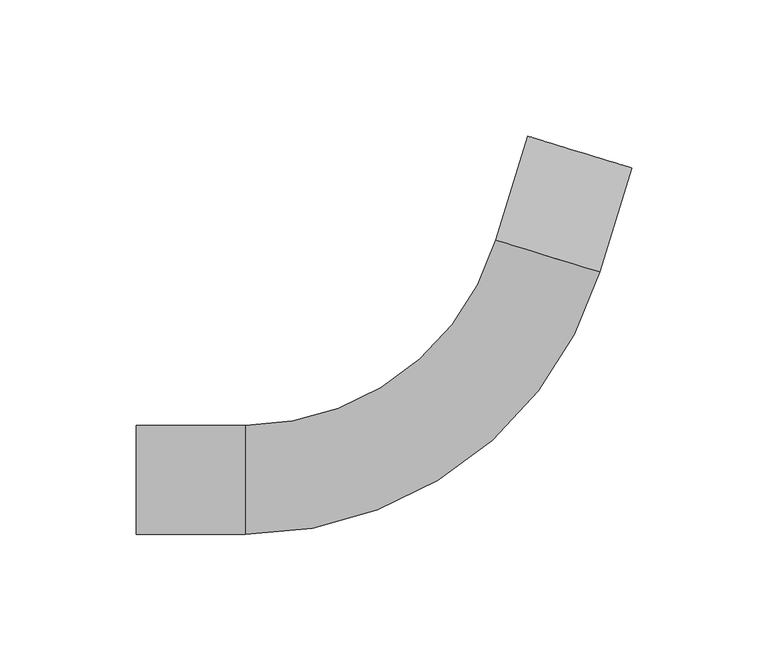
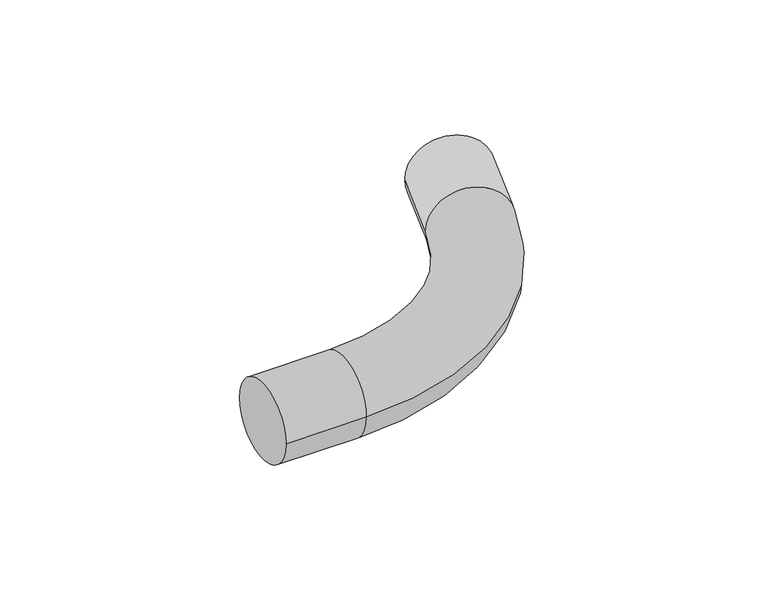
"""IFC4 building model written with IfcOpenShell, lengths in millimetres: cable carrier fitting geometry, Трубы гофрированные двустенные ПНД-ПВД : Трубы гофрированные двустенные ПНД-ПВД."""

import ifcopenshell
import ifcopenshell.guid

model = None  # the IFC model being written
_history = None  # IfcOwnerHistory: only IFC2X3 demands one
_inside = {}  # id of a spatial element -> (the spatial element, [elements in it])
_under = {}  # id of a project, library or spatial element -> (it, [spatial elements below it])
_declared = {}  # id of a project -> (the project, [libraries it declares])
_typed = {}  # id of a type object -> (the type object, [elements of that type])
_made_of = {}  # id of a material, layer set ... -> (it, [elements and type objects made of it])


def new_model(schema):
    """Start an empty IFC model of exactly this schema.

    Asked for "IFC4X3", IfcOpenShell would pick the latest addendum, in which some entities
    have other attributes; the version numbers below select the first issue.
    IFC2X3 requires an IfcOwnerHistory on every rooted entity: one is made here for all.
    """
    global model, _history
    if schema == "IFC4X3":
        model = ifcopenshell.file(schema_version=(4, 3, 0, 0))
    else:
        model = ifcopenshell.file(schema=schema)
    _inside.clear()
    _under.clear()
    _declared.clear()
    _typed.clear()
    _made_of.clear()
    _history = None
    if model.schema == "IFC2X3":
        org = make("IfcOrganization", Name="unknown")
        user = make(
            "IfcPersonAndOrganization",
            ThePerson=make("IfcPerson", FamilyName="unknown"),
            TheOrganization=org,
        )
        app = make(
            "IfcApplication",
            ApplicationDeveloper=org,
            Version="unknown",
            ApplicationFullName="unknown",
            ApplicationIdentifier="unknown",
        )
        _history = make(
            "IfcOwnerHistory",
            OwningUser=user,
            OwningApplication=app,
            ChangeAction="ADDED",
            CreationDate=0,
        )
    return model


def make(cls, **values):
    """One entity of the class cls with the attributes given. An attribute that is None is left unset."""
    return model.create_entity(
        cls, **{name: value for name, value in values.items() if value is not None}
    )


def rooted(cls, **values):
    """An entity with a GlobalId (a new one), such as an element, a storey or a relation."""
    return make(cls, GlobalId=ifcopenshell.guid.new(), OwnerHistory=_history, **values)


def si_unit(unit_type, name, prefix=None):
    """IfcSIUnit, for example si_unit("LENGTHUNIT", "METRE", prefix="MILLI")."""
    return make("IfcSIUnit", UnitType=unit_type, Prefix=prefix, Name=name)


def assignment(units):
    """IfcUnitAssignment: the units of a project."""
    return None if units is None else make("IfcUnitAssignment", Units=units)


def point(xyz):
    """IfcCartesianPoint."""
    return None if xyz is None else make("IfcCartesianPoint", Coordinates=xyz)


def direction(xyz):
    """IfcDirection."""
    return None if xyz is None else make("IfcDirection", DirectionRatios=xyz)


def frame(location, z_axis=None, x_axis=None):
    """IfcAxis2Placement3D, a coordinate frame: its origin and axes. An axis left out is left unset."""
    return make(
        "IfcAxis2Placement3D",
        Location=point(location),
        Axis=direction(z_axis),
        RefDirection=direction(x_axis),
    )


def origin():
    """The frame at (0, 0, 0) with its axes left unset."""
    return frame((0.0, 0.0, 0.0))


def place(relative_to, where):
    """IfcLocalPlacement: puts the frame where relative to a parent placement (None: the world)."""
    return make(
        "IfcLocalPlacement", PlacementRelTo=relative_to, RelativePlacement=where
    )


def context(
    kind, dimensions, precision=None, world=None, true_north=None, identifier=None
):
    """IfcGeometricRepresentationContext, for example the 3D "Model" context."""
    return make(
        "IfcGeometricRepresentationContext",
        ContextIdentifier=identifier,
        ContextType=kind,
        CoordinateSpaceDimension=dimensions,
        Precision=precision,
        WorldCoordinateSystem=world,
        TrueNorth=true_north,
    )


def project(units=None, contexts=None):
    """IfcProject with its units and contexts."""
    return rooted(
        "IfcProject",
        Name="project",
        RepresentationContexts=contexts,
        UnitsInContext=assignment(units),
    )


def spatial(cls, under=None, at=None, **own):
    """A site, building, storey or space (cls), placed at a placement, below another one or the project."""
    s = rooted(cls, ObjectPlacement=at, **own)
    if under is not None:
        _under.setdefault(under.id(), (under, []))[1].append(s)
    return s


def circle_curve(where, radius):
    """IfcCircle in the frame where."""
    return make("IfcCircle", Position=where, Radius=radius)


def ellipse_curve(where, semi_axis1, semi_axis2):
    """IfcEllipse in the frame where."""
    return make(
        "IfcEllipse", Position=where, SemiAxis1=semi_axis1, SemiAxis2=semi_axis2
    )


def trimmed(basis, trim1, trim2, sense, master):
    """IfcTrimmedCurve: the piece of a basis curve between two trims."""
    return make(
        "IfcTrimmedCurve",
        BasisCurve=basis,
        Trim1=trim1,
        Trim2=trim2,
        SenseAgreement=sense,
        MasterRepresentation=master,
    )


def shape(context_of_items, identifier, shape_type, items):
    """IfcShapeRepresentation: the items that make up one representation, for example the "Body"."""
    return make(
        "IfcShapeRepresentation",
        ContextOfItems=context_of_items,
        RepresentationIdentifier=identifier,
        RepresentationType=shape_type,
        Items=items,
    )


def source(mapping_origin, context_of_items, identifier, shape_type, items):
    """IfcRepresentationMap: a shape defined once, which mapped items show again and again."""
    return make(
        "IfcRepresentationMap",
        MappingOrigin=mapping_origin,
        MappedRepresentation=shape(context_of_items, identifier, shape_type, items),
    )


def transform(
    local_origin,
    x_axis=None,
    y_axis=None,
    z_axis=None,
    scale=None,
    scale2=None,
    scale3=None,
    uniform=True,
):
    """IfcCartesianTransformationOperator3D, or its non-uniform kind. x_axis, y_axis, z_axis: its Axis1, 2, 3."""
    if uniform:
        return make(
            "IfcCartesianTransformationOperator3D",
            Axis1=direction(x_axis),
            Axis2=direction(y_axis),
            LocalOrigin=point(local_origin),
            Scale=scale,
            Axis3=direction(z_axis),
        )
    return make(
        "IfcCartesianTransformationOperator3DnonUniform",
        Axis1=direction(x_axis),
        Axis2=direction(y_axis),
        LocalOrigin=point(local_origin),
        Scale=scale,
        Axis3=direction(z_axis),
        Scale2=scale2,
        Scale3=scale3,
    )


def mapped(mapping_source, mapping_target):
    """IfcMappedItem: shows the shape of a source again, moved by a transform."""
    return make(
        "IfcMappedItem", MappingSource=mapping_source, MappingTarget=mapping_target
    )


def made_of(thing, what):
    """Note that an element or type object is made of a material, layer set ...; save() writes the relation."""
    if what is not None:
        _made_of.setdefault(what.id(), (what, []))[1].append(thing)
    return thing


def element(
    cls,
    number,
    at=None,
    inside=None,
    cuts=None,
    type_object=None,
    material=None,
    context=None,
    identifier="Body",
    shape_type=None,
    held_by="IfcProductDefinitionShape",
    body=None,
    shapes=None,
    **own,
):
    """One element of the class cls, such as IfcWall. Its Tag is "e" and its number.

    at: its placement. inside: the storey or other place that contains it. cuts: it is an
    opening in that element (IfcRelVoidsElement). A single representation is given by context,
    identifier, shape_type and body (its items); several are given by shapes. held_by: the class
    of the entity that holds the representations. save() writes the other relations.
    """
    e = rooted(cls, Tag="e%d" % number, ObjectPlacement=at, **own)
    if body is not None:
        shapes = [shape(context, identifier, shape_type, body)]
    if shapes is not None:
        e.Representation = make(held_by, Representations=shapes)
    if inside is not None:
        _inside.setdefault(inside.id(), (inside, []))[1].append(e)
    if cuts is not None:
        rooted(
            "IfcRelVoidsElement", RelatingBuildingElement=cuts, RelatedOpeningElement=e
        )
    if type_object is not None:
        _typed.setdefault(type_object.id(), (type_object, []))[1].append(e)
    return made_of(e, material)


def aggregate(whole, parts):
    """IfcRelAggregates: a whole, such as a stair, and the parts it consists of."""
    return rooted("IfcRelAggregates", RelatingObject=whole, RelatedObjects=parts)


def save(model, path):
    """Write the relations noted so far, then the file.

    IfcRelAggregates (storeys below a building ...), IfcRelContainedInSpatialStructure (elements
    in a storey), IfcRelDefinesByType, IfcRelAssociatesMaterial and IfcRelDeclares: one each for
    every whole, place, type object, material and project.
    """
    for whole, parts in _under.values():
        aggregate(whole, parts)
    for where, things in _inside.values():
        rooted(
            "IfcRelContainedInSpatialStructure",
            RelatedElements=things,
            RelatingStructure=where,
        )
    for kind, things in _typed.values():
        rooted("IfcRelDefinesByType", RelatedObjects=things, RelatingType=kind)
    for what, things in _made_of.values():
        rooted("IfcRelAssociatesMaterial", RelatedObjects=things, RelatingMaterial=what)
    for by, libraries in _declared.values():
        rooted("IfcRelDeclares", RelatingContext=by, RelatedDefinitions=libraries)
    model.write(path)


def plane_surface(at):
    """IfcPlane: the flat surface through the origin of the frame at, square to its z axis."""
    return make("IfcPlane", Position=at)


def cylinder_surface(at, radius):
    """IfcCylindricalSurface: all points at the distance radius from the z axis of the frame at."""
    return make("IfcCylindricalSurface", Position=at, Radius=radius)


def revolved_surface(curve, axis_point, axis_direction):
    """IfcSurfaceOfRevolution: the curve turned about the line through axis_point along axis_direction."""
    return make(
        "IfcSurfaceOfRevolution",
        SweptCurve=make("IfcArbitraryOpenProfileDef", ProfileType="CURVE", Curve=curve),
        AxisPosition=make("IfcAxis1Placement", Location=point(axis_point), Axis=direction(axis_direction)),
    )


def advanced_brep(points, edges, surfaces, faces):
    """IfcAdvancedBrep: a solid bounded by faces that lie on surfaces and meet in shared edges.

    An edge is (start, end): straight between two places in points (the first is 0);
    or (start, end, curve); or (start, end, curve, False) where it runs against its curve.
    A face is (place in surfaces, loops), or (place, loops, False) where it looks against
    its surface's normal. A loop lists edges by number (the first is 1), with a minus sign
    where the edge is run from its end to its start. The first loop is the outer one.
    """
    corners = [point(p) for p in points]
    vertices = [make("IfcVertexPoint", VertexGeometry=c) for c in corners]
    made = []
    for start, end, *more in edges:
        made.append(
            make(
                "IfcEdgeCurve",
                EdgeStart=vertices[start],
                EdgeEnd=vertices[end],
                EdgeGeometry=more[0] if more else make("IfcPolyline", Points=[corners[start], corners[end]]),
                SameSense=more[1] if len(more) > 1 else True,
            )
        )
    hull = []
    for where, loops, *sense in faces:
        bounds = []
        for j, loop in enumerate(loops):
            ring = [make("IfcOrientedEdge", EdgeElement=made[abs(k) - 1], Orientation=k > 0) for k in loop]
            bounds.append(
                make(
                    "IfcFaceOuterBound" if j == 0 else "IfcFaceBound",
                    Bound=make("IfcEdgeLoop", EdgeList=ring),
                    Orientation=True,
                )
            )
        hull.append(make("IfcAdvancedFace", Bounds=bounds, FaceSurface=surfaces[where], SameSense=sense[0] if sense else True))
    return make("IfcAdvancedBrep", Outer=make("IfcClosedShell", CfsFaces=hull))


def cable_carrier_fitting_6d8e7e4b(model_context):
    return source(origin(), model_context, "Body", "AdvancedBrep", [
        advanced_brep(
        [(-125.8915967, -19.9898, 0.0), (-125.8915967, 19.9898, 0.0), (-85.9119967, -19.9898, 0.0), (-85.9119967, 19.9898, 0.0), (6.0018961, 88.0025029, 0.0), (44.2345777, 76.3135991, 0.0), (55.9234815, 114.5462807, 0.0), (17.6907999, 126.2351845, 0.0)],
        [
            (0, 1, circle_curve(frame((-125.8915967, 0.0, 0.0), z_axis=(-1.0, 0.0, 0.0), x_axis=(0.0, 1.0, 0.0)), 19.9898)),
            (1, 0, circle_curve(frame((-125.8915967, 0.0, 0.0), z_axis=(-1.0, 0.0, 0.0), x_axis=(0.0, 1.0, 0.0)), 19.9898)),
            (0, 2),
            (2, 3, circle_curve(frame((-85.9119967, 0.0, 0.0), z_axis=(-1.0, 0.0, 0.0), x_axis=(0.0, 1.0, 0.0)), 19.9898)),
            (3, 1),
            (3, 2, circle_curve(frame((-85.9119967, 0.0, 0.0), z_axis=(-1.0, 0.0, 0.0), x_axis=(0.0, 1.0, 0.0)), 19.9898)),
            (4, 3, circle_curve(frame((-85.9119967, 116.1034, 0.0), z_axis=(0.0, 0.0, -1.0), x_axis=(0.0, -1.0, 0.0)), 96.1136)),
            (2, 5, circle_curve(frame((-85.9119967, 116.1034, 0.0), z_axis=(0.0, 0.0, 1.0), x_axis=(0.0, -1.0, 0.0)), 136.0932)),
            (5, 4, circle_curve(frame((25.1182369, 82.158051, 0.0), z_axis=(-0.2923717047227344, -0.9563047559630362, 0.0), x_axis=(-0.9563047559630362, 0.2923717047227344, 0.0)), 19.9898)),
            (4, 5, circle_curve(frame((25.1182369, 82.158051, 0.0), z_axis=(-0.29237170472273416, -0.9563047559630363, 0.0), x_axis=(-0.9563047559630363, 0.29237170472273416, 0.0)), 19.9898)),
            (6, 7, circle_curve(frame((36.8071407, 120.3907326, 0.0), z_axis=(0.2923717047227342, 0.9563047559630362, 0.0), x_axis=(-0.9563047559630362, 0.2923717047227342, 0.0)), 19.9898)),
            (7, 6, circle_curve(frame((36.8071407, 120.3907326, 0.0), z_axis=(0.2923717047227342, 0.9563047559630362, 0.0), x_axis=(-0.9563047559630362, 0.2923717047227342, 0.0)), 19.9898)),
            (5, 6),
            (7, 4),
        ],
        [
            plane_surface(frame((-125.8915967, 0.0, 0.0), z_axis=(-1.0, 0.0, 0.0), x_axis=(0.0, 0.0, 1.0))),
            cylinder_surface(frame((-125.8915967, 0.0, 0.0), z_axis=(-1.0, 0.0, 0.0), x_axis=(0.0, 1.0, 0.0)), 19.9898),
            revolved_surface(trimmed(ellipse_curve(frame((-85.9119967, 0.0, 0.0), z_axis=(-1.0, 0.0, 0.0), x_axis=(0.0, 1.0, 0.0)), 19.9898, 19.9898), [point((-85.9119967, -19.9898, 0.0))], [point((-85.9119967, 19.9898, 0.0))], True, "CARTESIAN"), (-85.9119967, 116.1034, 0.0), (0.0, 0.0, 1.0)),
            revolved_surface(trimmed(ellipse_curve(frame((-85.9119967, 0.0, 0.0), z_axis=(-1.0, 0.0, 0.0), x_axis=(0.0, 1.0, 0.0)), 19.9898, 19.9898), [point((-85.9119967, 19.9898, 0.0))], [point((-85.9119967, -19.9898, 0.0))], True, "CARTESIAN"), (-85.9119967, 116.1034, 0.0), (0.0, 0.0, 1.0)),
            plane_surface(frame((36.8071407, 120.3907326, 0.0), z_axis=(0.2923717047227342, 0.9563047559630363, 0.0), x_axis=(0.0, 0.0, 1.0))),
            cylinder_surface(frame((25.1182369, 82.158051, 0.0), z_axis=(-0.2923717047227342, -0.9563047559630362, 0.0), x_axis=(-0.9563047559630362, 0.2923717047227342, 0.0)), 19.9898),
        ],
        [
            (0, [[1, 2]]),
            (1, [[-1, 3, 4, 5]]),
            (1, [[-2, -5, 6, -3]]),
            (2, [[7, -4, 8, 9]]),
            (3, [[-8, -6, -7, 10]]),
            (4, [[11, 12]]),
            (5, [[-9, 13, -12, 14]]),
            (5, [[-10, -14, -11, -13]]),
        ],
    ),
    ])


if __name__ == "__main__":
    model = new_model("IFC4")
    model_context = context("Model", 3, world=origin())
    ifc_project = project(units=[si_unit("LENGTHUNIT", "METRE", prefix="MILLI")], contexts=[model_context])
    site = spatial("IfcSite", under=ifc_project)
    building = spatial("IfcBuilding", under=site)
    placement = place(None, origin())
    cable_carrier_fitting_shape = cable_carrier_fitting_6d8e7e4b(model_context)
    element("IfcCableCarrierFitting", 1, ObjectType="Трубы гофрированные двустенные ПНД-ПВД : Трубы гофрированные двустенные ПНД-ПВД", at=placement, inside=building, context=model_context, shape_type="MappedRepresentation", body=[
        mapped(cable_carrier_fitting_shape, transform((0.0, 0.0, 0.0), x_axis=(1.0, 0.0, 0.0), y_axis=(0.0, 1.0, 0.0), z_axis=(0.0, 0.0, 1.0))),
    ])
    save(model, "model.ifc")
